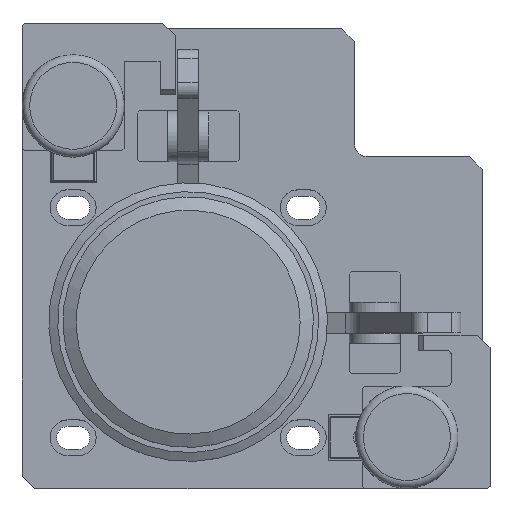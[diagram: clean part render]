
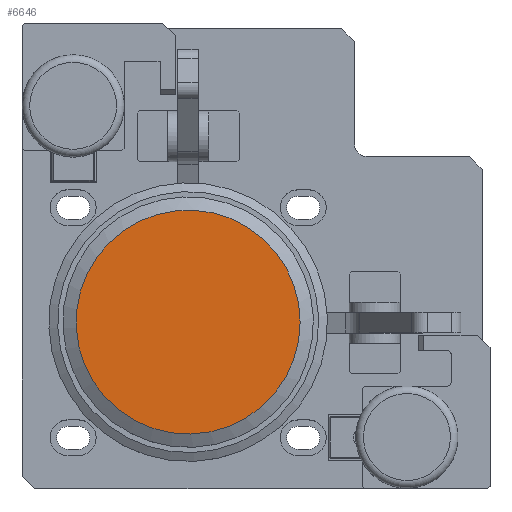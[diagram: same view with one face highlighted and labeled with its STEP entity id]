
A CAD part, top view. The second image highlights one B-rep face of the part: STEP entity #6646.
In plain terms, the highlighted planar face has unit normal (0, 0, 1).
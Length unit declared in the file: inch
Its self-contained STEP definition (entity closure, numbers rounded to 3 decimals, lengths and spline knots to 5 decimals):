
#1651=PLANE('',#7214);
#2141=FACE_OUTER_BOUND('',#2626,.T.);
#2626=EDGE_LOOP('',(#5685));
#2812=CIRCLE('',#7215,1.72456);
#3342=VERTEX_POINT('',#10722);
#4151=EDGE_CURVE('',#3342,#3342,#2812,.T.);
#5685=ORIENTED_EDGE('',*,*,#4151,.T.);
#6646=ADVANCED_FACE('',(#2141),#1651,.T.);
#7214=AXIS2_PLACEMENT_3D('',#10721,#8928,#8929);
#7215=AXIS2_PLACEMENT_3D('',#10723,#8930,#8931);
#8928=DIRECTION('center_axis',(0.,0.,
1.));
#8929=DIRECTION('ref_axis',(-0.924,-0.381,0.));
#8930=DIRECTION('center_axis',(0.,0.,
1.));
#8931=DIRECTION('ref_axis',(-0.924,-0.381,0.));
#10721=CARTESIAN_POINT('Origin',(-3.63675,0.15402,5.86614));
#10722=CARTESIAN_POINT('',(-1.91219,0.15402,5.86614));
#10723=CARTESIAN_POINT('Origin',(-3.63675,0.15402,5.86614));
